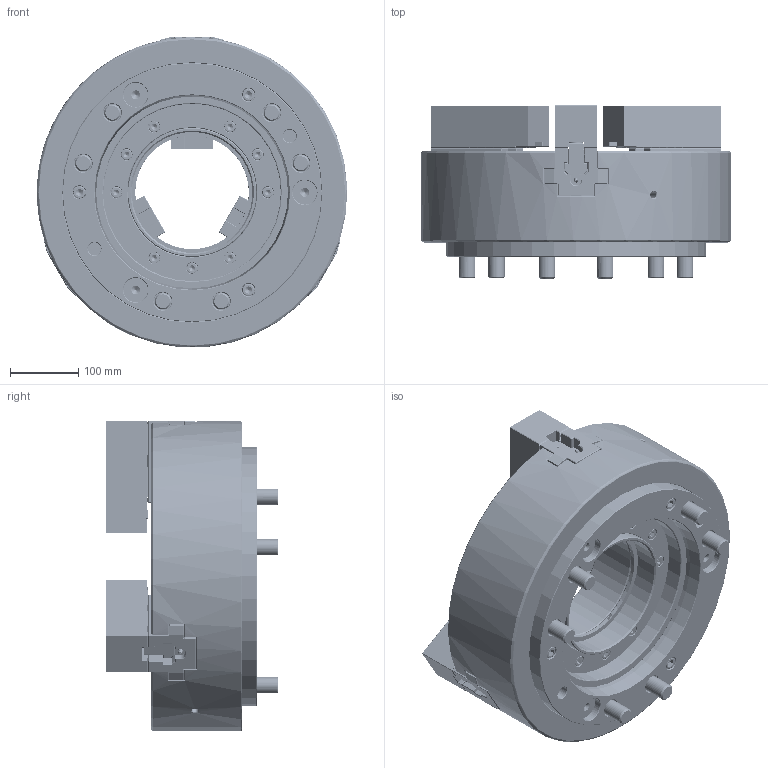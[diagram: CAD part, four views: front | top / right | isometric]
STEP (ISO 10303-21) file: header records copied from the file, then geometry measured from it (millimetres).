
FILE_DESCRIPTION(/* description */ (''),/* implementation_level */ '2;1');
FILE_NAME(/* name */ '\\Itserver\個人資料夾\柯玫如\8.網頁3D討論\1.中空油壓系列\1-1中空油壓夾頭\OPB系列\OPB-218\OPB-218-A15.stp',/* time_stamp */ '2024-11-18T16:02:55+08:00',/* author */ ('034'),/* organization */ (''),/* preprocessor_version */ 'ST-DEVELOPER v16.13',/* originating_system */ 'Autodesk Inventor 2018',/* authorisation */ '');
FILE_SCHEMA (('AUTOMOTIVE_DESIGN { 1 0 10303 214 3 1 1 }'));
Products named in the file (1): OPB-218-A15
Bounding box: 454.87 x 253.29 x 455 mm (x, y, z)
Volume: 20351399.2 mm3; surface area: 1175632.3 mm2
Topology: 1 solids, 47 shells, 8041 faces, 28623 edges, 18909 vertices
Faces by surface type: plane 4976, cylinder 2295, bspline 434, cone 261, torus 71, sphere 4
Full cylindrical faces by diameter (mm): 3.4 x6, 4 x6, 4.5 x6, 5.1 x7, 6 x9, 7 x6, 7.53 x6, 10 x6, 10.3 x7, 11 x6, 12 x3, 13 x3, 14.1 x6, 16 x9, 17 x9, 18 x3, 19 x5, 20 x6, 21 x6, 24 x6, 26 x12, 30 x8, 32 x6, 35.7 x3, 36 x6, 38 x6, 60 x4, 166.6 x1, 166.7 x1, 170 x1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
Entity records: 308566 total; most frequent: CARTESIAN_POINT 62978, ORIENTED_EDGE 56004, DIRECTION 47077, EDGE_CURVE 28002, LINE 21675, VECTOR 21675, VERTEX_POINT 18728, AXIS2_PLACEMENT_3D 12701
